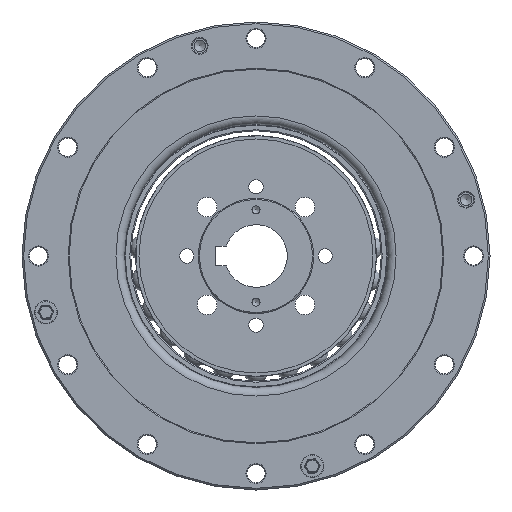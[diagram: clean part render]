
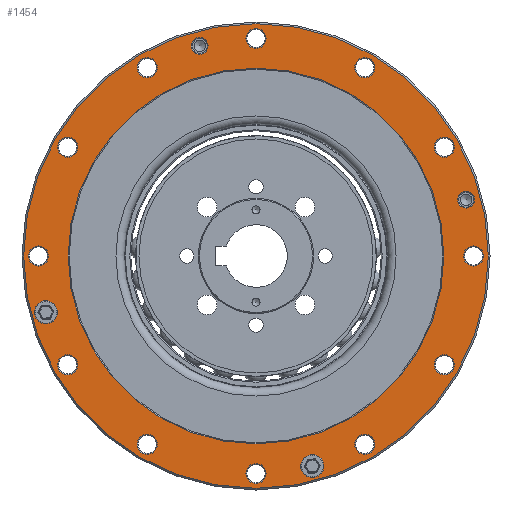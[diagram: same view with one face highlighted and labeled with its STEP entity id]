
A CAD part, front view. The second image highlights one B-rep face of the part: STEP entity #1454.
In plain terms, the highlighted planar face has unit normal (0, -1, 0).
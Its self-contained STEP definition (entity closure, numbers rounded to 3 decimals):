
#1004=PLANE('',#7834);
#1454=ADVANCED_FACE('',(#2279,#2280,#2281,#2282,#2283,#2284,#2285,#2286,
#2287,#2288,#2289,#2290,#2291,#2292,#2293,#2294,#2295,#2296),#1004,.T.);
#2279=FACE_BOUND('',#3084,.T.);
#2280=FACE_BOUND('',#3085,.T.);
#2281=FACE_BOUND('',#3086,.T.);
#2282=FACE_BOUND('',#3087,.T.);
#2283=FACE_BOUND('',#3088,.T.);
#2284=FACE_BOUND('',#3089,.T.);
#2285=FACE_BOUND('',#3090,.T.);
#2286=FACE_BOUND('',#3091,.T.);
#2287=FACE_BOUND('',#3092,.T.);
#2288=FACE_BOUND('',#3093,.T.);
#2289=FACE_BOUND('',#3094,.T.);
#2290=FACE_BOUND('',#3095,.T.);
#2291=FACE_BOUND('',#3096,.T.);
#2292=FACE_BOUND('',#3097,.T.);
#2293=FACE_BOUND('',#3098,.T.);
#2294=FACE_BOUND('',#3099,.T.);
#2295=FACE_BOUND('',#3100,.T.);
#2296=FACE_BOUND('',#3101,.T.);
#3084=EDGE_LOOP('',(#4100));
#3085=EDGE_LOOP('',(#4101));
#3086=EDGE_LOOP('',(#4102));
#3087=EDGE_LOOP('',(#4103));
#3088=EDGE_LOOP('',(#4104));
#3089=EDGE_LOOP('',(#4105));
#3090=EDGE_LOOP('',(#4106));
#3091=EDGE_LOOP('',(#4107));
#3092=EDGE_LOOP('',(#4108));
#3093=EDGE_LOOP('',(#4109));
#3094=EDGE_LOOP('',(#4110));
#3095=EDGE_LOOP('',(#4111));
#3096=EDGE_LOOP('',(#4112));
#3097=EDGE_LOOP('',(#4113));
#3098=EDGE_LOOP('',(#4114));
#3099=EDGE_LOOP('',(#4115));
#3100=EDGE_LOOP('',(#4116));
#3101=EDGE_LOOP('',(#4117));
#4100=ORIENTED_EDGE('',*,*,#6331,.T.);
#4101=ORIENTED_EDGE('',*,*,#6332,.T.);
#4102=ORIENTED_EDGE('',*,*,#6333,.T.);
#4103=ORIENTED_EDGE('',*,*,#6334,.T.);
#4104=ORIENTED_EDGE('',*,*,#6335,.T.);
#4105=ORIENTED_EDGE('',*,*,#6336,.T.);
#4106=ORIENTED_EDGE('',*,*,#6337,.T.);
#4107=ORIENTED_EDGE('',*,*,#6338,.T.);
#4108=ORIENTED_EDGE('',*,*,#6339,.T.);
#4109=ORIENTED_EDGE('',*,*,#6340,.T.);
#4110=ORIENTED_EDGE('',*,*,#6341,.T.);
#4111=ORIENTED_EDGE('',*,*,#6342,.T.);
#4112=ORIENTED_EDGE('',*,*,#6343,.T.);
#4113=ORIENTED_EDGE('',*,*,#6344,.T.);
#4114=ORIENTED_EDGE('',*,*,#6345,.T.);
#4115=ORIENTED_EDGE('',*,*,#6346,.T.);
#4116=ORIENTED_EDGE('',*,*,#6347,.T.);
#4117=ORIENTED_EDGE('',*,*,#6348,.T.);
#5621=VERTEX_POINT('',#11648);
#5622=VERTEX_POINT('',#11650);
#5623=VERTEX_POINT('',#11652);
#5624=VERTEX_POINT('',#11654);
#5625=VERTEX_POINT('',#11656);
#5626=VERTEX_POINT('',#11658);
#5627=VERTEX_POINT('',#11660);
#5628=VERTEX_POINT('',#11662);
#5629=VERTEX_POINT('',#11664);
#5630=VERTEX_POINT('',#11666);
#5631=VERTEX_POINT('',#11668);
#5632=VERTEX_POINT('',#11670);
#5633=VERTEX_POINT('',#11672);
#5634=VERTEX_POINT('',#11674);
#5635=VERTEX_POINT('',#11676);
#5636=VERTEX_POINT('',#11678);
#5637=VERTEX_POINT('',#11680);
#5638=VERTEX_POINT('',#11682);
#6331=EDGE_CURVE('',#5621,#5621,#7112,.T.);
#6332=EDGE_CURVE('',#5622,#5622,#7113,.T.);
#6333=EDGE_CURVE('',#5623,#5623,#7114,.T.);
#6334=EDGE_CURVE('',#5624,#5624,#7115,.T.);
#6335=EDGE_CURVE('',#5625,#5625,#7116,.T.);
#6336=EDGE_CURVE('',#5626,#5626,#7117,.T.);
#6337=EDGE_CURVE('',#5627,#5627,#7118,.T.);
#6338=EDGE_CURVE('',#5628,#5628,#7119,.T.);
#6339=EDGE_CURVE('',#5629,#5629,#7120,.T.);
#6340=EDGE_CURVE('',#5630,#5630,#7121,.T.);
#6341=EDGE_CURVE('',#5631,#5631,#7122,.T.);
#6342=EDGE_CURVE('',#5632,#5632,#7123,.T.);
#6343=EDGE_CURVE('',#5633,#5633,#7124,.T.);
#6344=EDGE_CURVE('',#5634,#5634,#7125,.T.);
#6345=EDGE_CURVE('',#5635,#5635,#7126,.T.);
#6346=EDGE_CURVE('',#5636,#5636,#7127,.T.);
#6347=EDGE_CURVE('',#5637,#5637,#7128,.T.);
#6348=EDGE_CURVE('',#5638,#5638,#7129,.T.);
#7112=CIRCLE('',#7816,3.05);
#7113=CIRCLE('',#7817,2.55);
#7114=CIRCLE('',#7818,3.05);
#7115=CIRCLE('',#7819,3.05);
#7116=CIRCLE('',#7820,2.55);
#7117=CIRCLE('',#7821,3.05);
#7118=CIRCLE('',#7822,3.05);
#7119=CIRCLE('',#7823,3.05);
#7120=CIRCLE('',#7824,2.55);
#7121=CIRCLE('',#7825,3.05);
#7122=CIRCLE('',#7826,3.05);
#7123=CIRCLE('',#7827,3.05);
#7124=CIRCLE('',#7828,3.05);
#7125=CIRCLE('',#7829,3.05);
#7126=CIRCLE('',#7830,3.05);
#7127=CIRCLE('',#7831,2.55);
#7128=CIRCLE('',#7832,70.5);
#7129=CIRCLE('',#7833,57.);
#7816=AXIS2_PLACEMENT_3D('',#11647,#9264,#9265);
#7817=AXIS2_PLACEMENT_3D('',#11649,#9266,#9267);
#7818=AXIS2_PLACEMENT_3D('',#11651,#9268,#9269);
#7819=AXIS2_PLACEMENT_3D('',#11653,#9270,#9271);
#7820=AXIS2_PLACEMENT_3D('',#11655,#9272,#9273);
#7821=AXIS2_PLACEMENT_3D('',#11657,#9274,#9275);
#7822=AXIS2_PLACEMENT_3D('',#11659,#9276,#9277);
#7823=AXIS2_PLACEMENT_3D('',#11661,#9278,#9279);
#7824=AXIS2_PLACEMENT_3D('',#11663,#9280,#9281);
#7825=AXIS2_PLACEMENT_3D('',#11665,#9282,#9283);
#7826=AXIS2_PLACEMENT_3D('',#11667,#9284,#9285);
#7827=AXIS2_PLACEMENT_3D('',#11669,#9286,#9287);
#7828=AXIS2_PLACEMENT_3D('',#11671,#9288,#9289);
#7829=AXIS2_PLACEMENT_3D('',#11673,#9290,#9291);
#7830=AXIS2_PLACEMENT_3D('',#11675,#9292,#9293);
#7831=AXIS2_PLACEMENT_3D('',#11677,#9294,#9295);
#7832=AXIS2_PLACEMENT_3D('',#11679,#9296,#9297);
#7833=AXIS2_PLACEMENT_3D('',#11681,#9298,#9299);
#7834=AXIS2_PLACEMENT_3D('',#11683,#9300,#9301);
#9264=DIRECTION('',(0.,1.,0.));
#9265=DIRECTION('',(1.,0.,0.));
#9266=DIRECTION('',(0.,1.,0.));
#9267=DIRECTION('',(1.,0.,0.));
#9268=DIRECTION('',(0.,1.,0.));
#9269=DIRECTION('',(1.,0.,0.));
#9270=DIRECTION('',(0.,1.,0.));
#9271=DIRECTION('',(1.,0.,0.));
#9272=DIRECTION('',(0.,1.,0.));
#9273=DIRECTION('',(1.,0.,0.));
#9274=DIRECTION('',(0.,1.,0.));
#9275=DIRECTION('',(1.,0.,0.));
#9276=DIRECTION('',(0.,1.,0.));
#9277=DIRECTION('',(1.,0.,0.));
#9278=DIRECTION('',(0.,1.,0.));
#9279=DIRECTION('',(1.,0.,0.));
#9280=DIRECTION('',(0.,1.,0.));
#9281=DIRECTION('',(1.,0.,0.));
#9282=DIRECTION('',(0.,1.,0.));
#9283=DIRECTION('',(1.,0.,0.));
#9284=DIRECTION('',(0.,1.,0.));
#9285=DIRECTION('',(1.,0.,0.));
#9286=DIRECTION('',(0.,1.,0.));
#9287=DIRECTION('',(1.,0.,0.));
#9288=DIRECTION('',(0.,1.,0.));
#9289=DIRECTION('',(1.,0.,0.));
#9290=DIRECTION('',(0.,1.,0.));
#9291=DIRECTION('',(1.,0.,0.));
#9292=DIRECTION('',(0.,1.,0.));
#9293=DIRECTION('',(1.,0.,0.));
#9294=DIRECTION('',(0.,1.,0.));
#9295=DIRECTION('',(1.,0.,0.));
#9296=DIRECTION('',(0.,-1.,0.));
#9297=DIRECTION('',(1.,0.,0.));
#9298=DIRECTION('',(0.,1.,0.));
#9299=DIRECTION('',(-1.,0.,0.));
#9300=DIRECTION('',(0.,-1.,0.));
#9301=DIRECTION('',(-1.,0.,0.));
#11647=CARTESIAN_POINT('',(-33.,-42.,57.158));
#11648=CARTESIAN_POINT('',(-29.95,-42.,57.158));
#11649=CARTESIAN_POINT('',(-17.082,-42.,63.751));
#11650=CARTESIAN_POINT('',(-14.532,-42.,63.751));
#11651=CARTESIAN_POINT('',(-57.158,-42.,33.));
#11652=CARTESIAN_POINT('',(-54.108,-42.,33.));
#11653=CARTESIAN_POINT('',(-66.,-42.,0.));
#11654=CARTESIAN_POINT('',(-62.95,-42.,0.));
#11655=CARTESIAN_POINT('',(-63.751,-42.,-17.082));
#11656=CARTESIAN_POINT('',(-61.201,-42.,-17.082));
#11657=CARTESIAN_POINT('',(-57.158,-42.,-33.));
#11658=CARTESIAN_POINT('',(-54.108,-42.,-33.));
#11659=CARTESIAN_POINT('',(-33.,-42.,-57.158));
#11660=CARTESIAN_POINT('',(-29.95,-42.,-57.158));
#11661=CARTESIAN_POINT('',(0.,-42.,-66.));
#11662=CARTESIAN_POINT('',(3.05,-42.,-66.));
#11663=CARTESIAN_POINT('',(17.082,-42.,-63.751));
#11664=CARTESIAN_POINT('',(19.632,-42.,-63.751));
#11665=CARTESIAN_POINT('',(33.,-42.,-57.158));
#11666=CARTESIAN_POINT('',(36.05,-42.,-57.158));
#11667=CARTESIAN_POINT('',(57.158,-42.,-33.));
#11668=CARTESIAN_POINT('',(60.208,-42.,-33.));
#11669=CARTESIAN_POINT('',(66.,-42.,0.));
#11670=CARTESIAN_POINT('',(69.05,-42.,0.));
#11671=CARTESIAN_POINT('',(0.,-42.,66.));
#11672=CARTESIAN_POINT('',(3.05,-42.,66.));
#11673=CARTESIAN_POINT('',(33.,-42.,57.158));
#11674=CARTESIAN_POINT('',(36.05,-42.,57.158));
#11675=CARTESIAN_POINT('',(57.158,-42.,33.));
#11676=CARTESIAN_POINT('',(60.208,-42.,33.));
#11677=CARTESIAN_POINT('',(63.751,-42.,17.082));
#11678=CARTESIAN_POINT('',(66.301,-42.,17.082));
#11679=CARTESIAN_POINT('',(0.,-42.,0.));
#11680=CARTESIAN_POINT('',(70.5,-42.,0.));
#11681=CARTESIAN_POINT('',(0.,-42.,0.));
#11682=CARTESIAN_POINT('',(-57.,-42.,0.));
#11683=CARTESIAN_POINT('',(-71.,-42.,0.));
